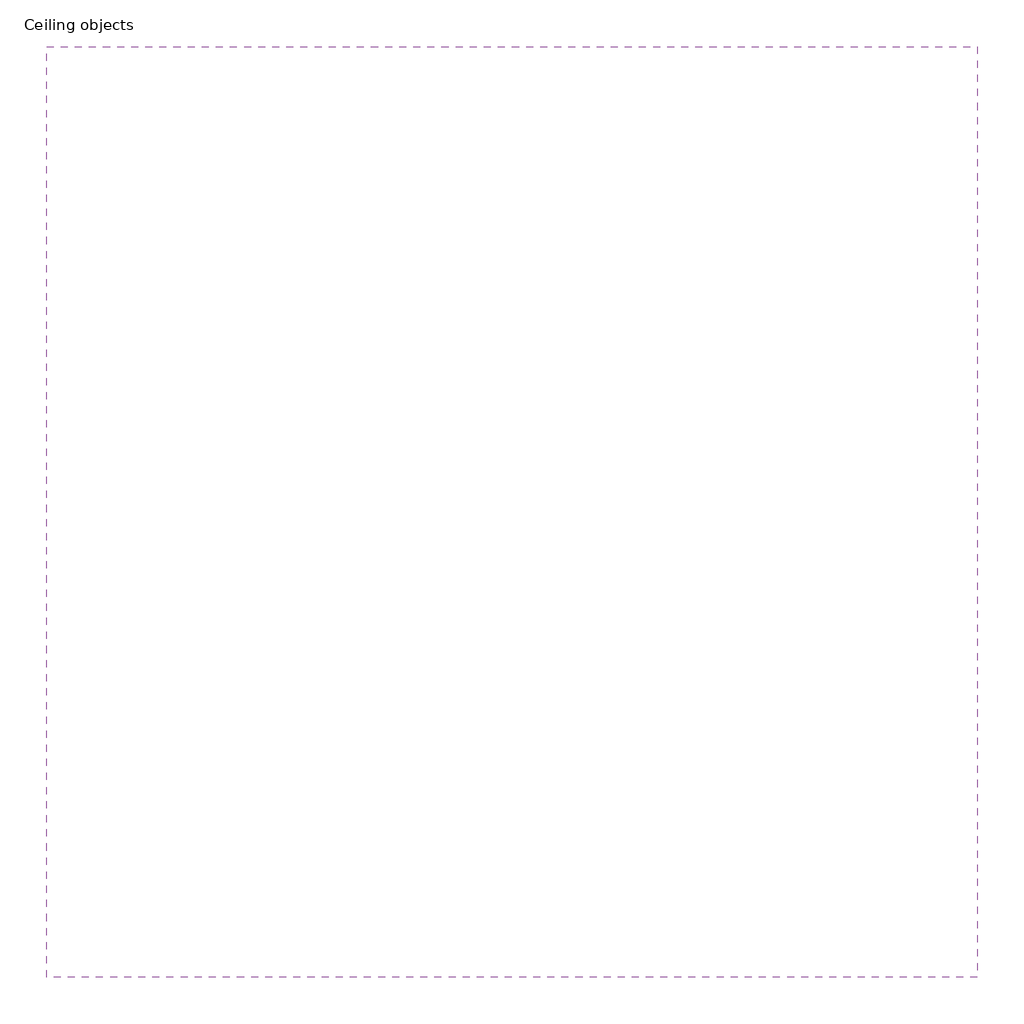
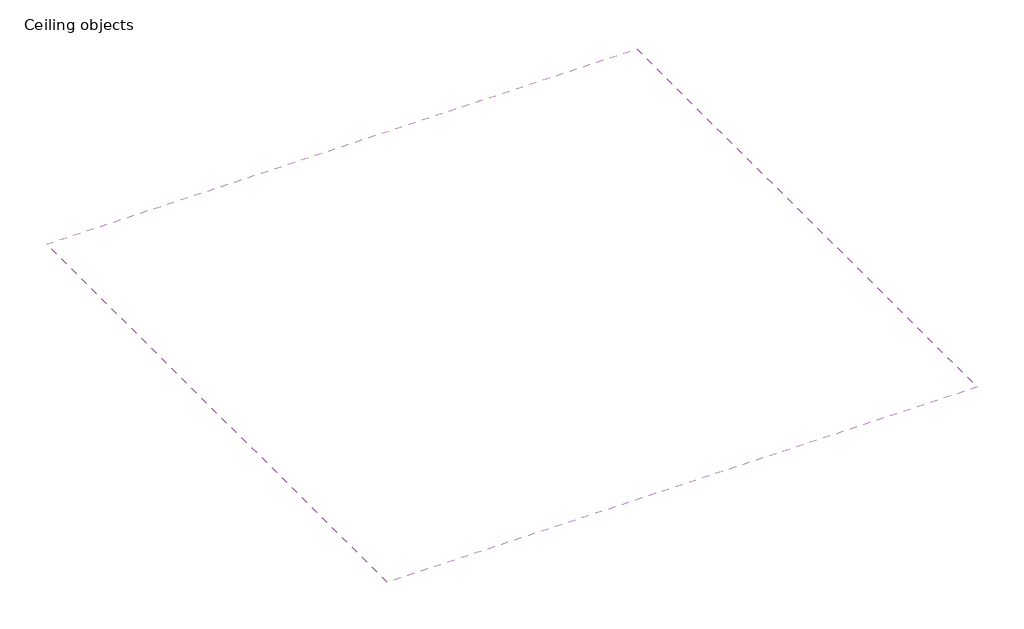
# One storey: 1 covering.
"""IFC4 building model written with IfcOpenShell, lengths in millimetres."""

from ifc_helpers import new_model, si_unit, frame, origin, place, context, project, spatial, polyline, outline, extrude, element, save

model = new_model("IFC4")

# Units and contexts
model_context = context("Model", 3, world=origin())
ifc_project = project(units=[si_unit("LENGTHUNIT", "METRE", prefix="MILLI")], contexts=[model_context])

# Site, building, storey
site = spatial("IfcSite", under=ifc_project)
building = spatial("IfcBuilding", under=site)
storey = spatial("IfcBuildingStorey", under=building, Name="Ceiling objects", Elevation=0.0)

# Covering
placement = place(None, origin())
element("IfcCovering", 1, ObjectType="Knauf Danoline Contrapanel Globe 600x1200x12.5_B", at=placement, inside=storey, context=model_context, shape_type="SweptSolid", body=[
    extrude(outline(polyline([(-4783.0103193, 8117.0281757), (-4783.0103193, 5117.0281757), (-7783.0103193, 5117.0281757), (-7783.0103193, 8117.0281757), (-4783.0103193, 8117.0281757)])), frame((0.0, 0.0, 2600.0), z_axis=(0.0, 0.0, 1.0), x_axis=(1.0, 0.0, 0.0)), (0.0, 0.0, 1.0), 12.5),
])

save(model, "model.ifc")
